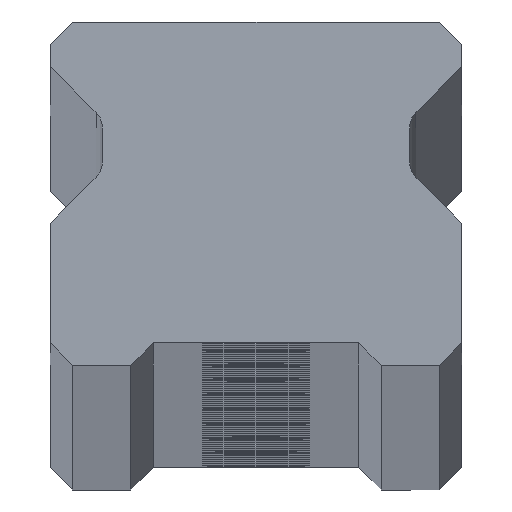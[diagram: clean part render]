
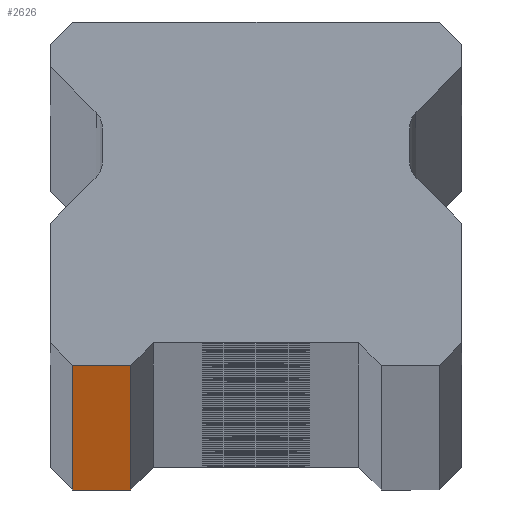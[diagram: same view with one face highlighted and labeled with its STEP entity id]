
A CAD part, top view. The second image highlights one B-rep face of the part: STEP entity #2626.
In plain terms, the highlighted planar face has unit normal (0, -1, 0).
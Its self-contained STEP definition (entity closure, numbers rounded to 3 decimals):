
#227 = EDGE_CURVE ( 'NONE', #9118, #11600, #5690, .T. ) ;
#348 = VECTOR ( 'NONE', #12095, 1000. ) ;
#772 = VECTOR ( 'NONE', #8403, 1000. ) ;
#1329 = FACE_OUTER_BOUND ( 'NONE', #7312, .T. ) ;
#1448 = CARTESIAN_POINT ( 'NONE',  ( 11.5, 0., 2000. ) ) ;
#1566 = DIRECTION ( 'NONE',  ( 0., 1., 0. ) ) ;
#1802 = ORIENTED_EDGE ( 'NONE', *, *, #227, .F. ) ;
#2590 = CARTESIAN_POINT ( 'NONE',  ( 11.5, 0., 2000. ) ) ;
#2626 = ADVANCED_FACE ( 'NONE', ( #1329 ), #10453, .F. ) ;
#3356 = CARTESIAN_POINT ( 'NONE',  ( -7., 0., -2000. ) ) ;
#3712 = CARTESIAN_POINT ( 'NONE',  ( -10.25, 0., 2000. ) ) ;
#3780 = CARTESIAN_POINT ( 'NONE',  ( -7., 0., -2000. ) ) ;
#3918 = ORIENTED_EDGE ( 'NONE', *, *, #5106, .T. ) ;
#5106 = EDGE_CURVE ( 'NONE', #10794, #11600, #9231, .T. ) ;
#5504 = DIRECTION ( 'NONE',  ( 1., 0., 0. ) ) ;
#5666 = ORIENTED_EDGE ( 'NONE', *, *, #11952, .T. ) ;
#5690 = LINE ( 'NONE', #1448, #10758 ) ;
#6660 = DIRECTION ( 'NONE',  ( -1., 0., 0. ) ) ;
#7288 = VERTEX_POINT ( 'NONE', #11096 ) ;
#7312 = EDGE_LOOP ( 'NONE', ( #5666, #3918, #1802, #9189 ) ) ;
#7521 = CARTESIAN_POINT ( 'NONE',  ( 11.5, 0., -2000. ) ) ;
#7559 = LINE ( 'NONE', #11025, #348 ) ;
#8403 = DIRECTION ( 'NONE',  ( 0., 0., 1. ) ) ;
#9118 = VERTEX_POINT ( 'NONE', #3712 ) ;
#9189 = ORIENTED_EDGE ( 'NONE', *, *, #10948, .T. ) ;
#9231 = LINE ( 'NONE', #3356, #772 ) ;
#9262 = LINE ( 'NONE', #7521, #12741 ) ;
#10453 = PLANE ( 'NONE',  #10858 ) ;
#10689 = DIRECTION ( 'NONE',  ( 1., 0., 0. ) ) ;
#10758 = VECTOR ( 'NONE', #10689, 1000. ) ;
#10794 = VERTEX_POINT ( 'NONE', #3780 ) ;
#10858 = AXIS2_PLACEMENT_3D ( 'NONE', #2590, #1566, #6660 ) ;
#10948 = EDGE_CURVE ( 'NONE', #9118, #7288, #7559, .T. ) ;
#11025 = CARTESIAN_POINT ( 'NONE',  ( -10.25, 0., 2000. ) ) ;
#11096 = CARTESIAN_POINT ( 'NONE',  ( -10.25, 0., -2000. ) ) ;
#11361 = CARTESIAN_POINT ( 'NONE',  ( -7., 0., 2000. ) ) ;
#11600 = VERTEX_POINT ( 'NONE', #11361 ) ;
#11952 = EDGE_CURVE ( 'NONE', #7288, #10794, #9262, .T. ) ;
#12095 = DIRECTION ( 'NONE',  ( 0., 0., -1. ) ) ;
#12741 = VECTOR ( 'NONE', #5504, 1000. ) ;
